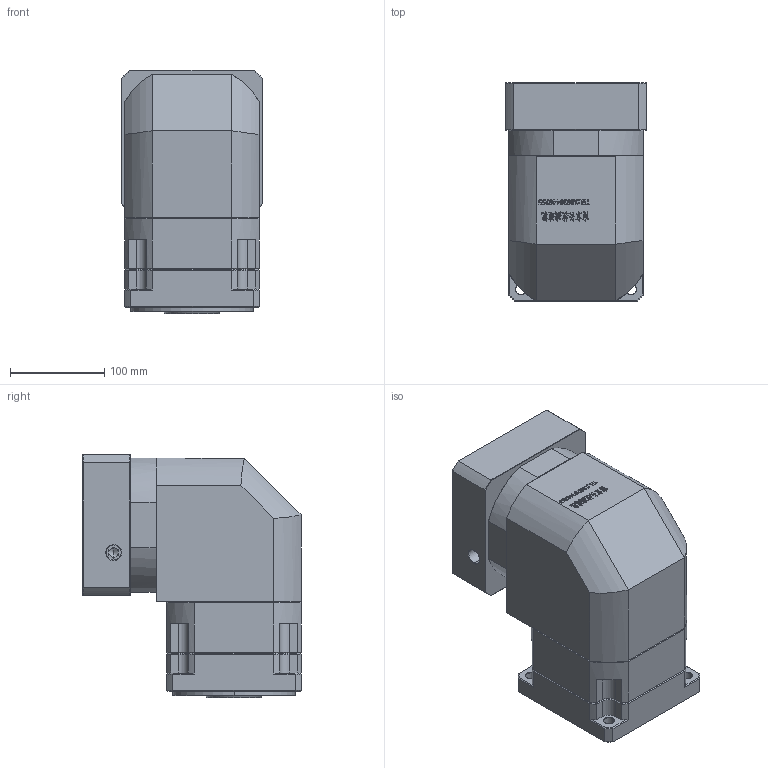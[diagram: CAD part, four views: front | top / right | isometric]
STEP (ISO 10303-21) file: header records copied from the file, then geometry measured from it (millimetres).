
FILE_DESCRIPTION (( 'STEP AP214' ), '1' );
FILE_NAME ('ZBR142A-K35-L1-28-130-165-M10.step', '2023-03-18T09:25:18', ( '' ), ( '' ), 'SwSTEP 2.0', 'SolidWorks 2016', '' );
FILE_SCHEMA (( 'AUTOMOTIVE_DESIGN' ));
Length unit declared in the file: millimetre
Products named in the file (1): ZBR142A-K35-L1-28-130-165-M10
Bounding box: 150 x 231 x 257.7 mm (x, y, z)
Volume: 5354063.4 mm3; surface area: 395051.2 mm2
Topology: 6 solids, 6 shells, 2856 faces, 7636 edges, 4928 vertices
Faces by surface type: plane 1533, bspline 590, cylinder 387, cone 326, torus 20
Entity records: 157942 total; most frequent: CARTESIAN_POINT 59705, ORIENTED_EDGE 15216, DIRECTION 11532, EDGE_CURVE 7608, LINE 5160, VECTOR 5160, VERTEX_POINT 4928, AXIS2_PLACEMENT_3D 3186
